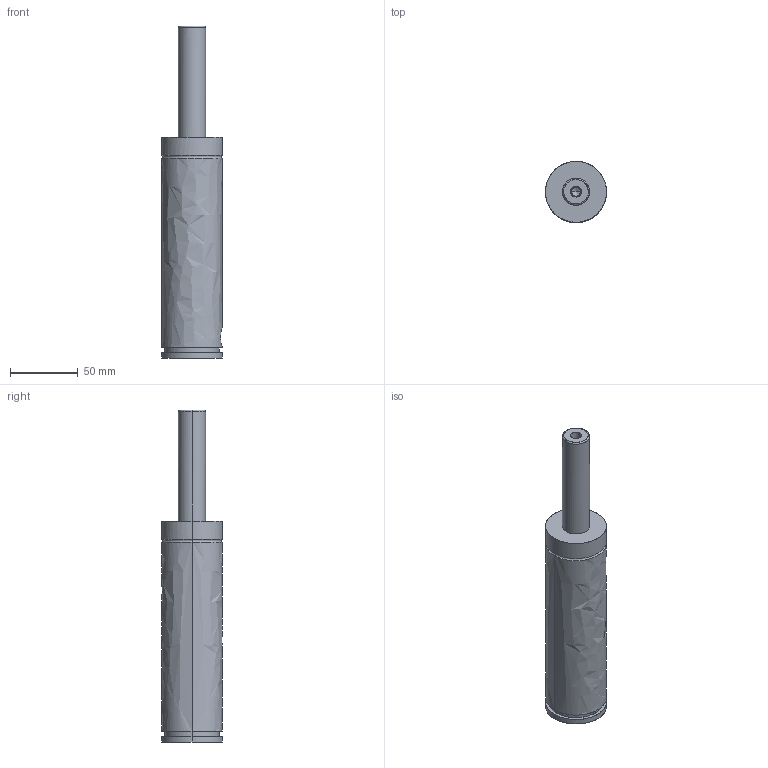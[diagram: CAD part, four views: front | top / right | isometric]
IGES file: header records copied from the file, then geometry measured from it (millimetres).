
Global section: file name: E:\UnigraphicsGraphicData\MISUMI_PRESS-PARTS\IGES\3d_gse45-80_03888_r00.igs; native system: NX V5.0; preprocessor: UGS NX IGES V5.0; author: MISUMI; date: 20110105.160758; units: millimetre
Bounding box: 45 x 45 x 245 mm (x, y, z)
Surface area: 33474 mm2 (no closed solid volume)
Topology: 0 solids, 0 shells, 57 faces, 450 edges, 448 vertices
Faces by surface type: bspline 57
